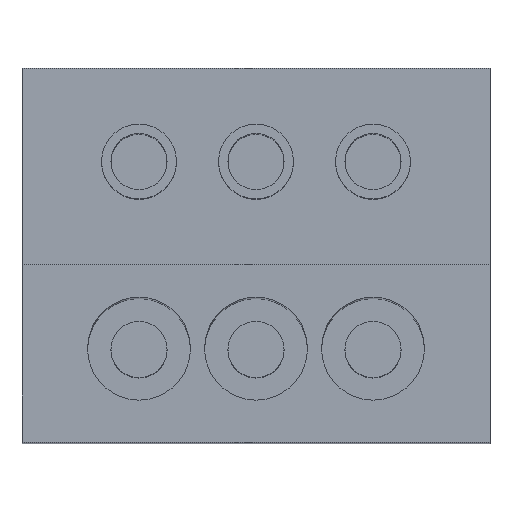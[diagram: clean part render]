
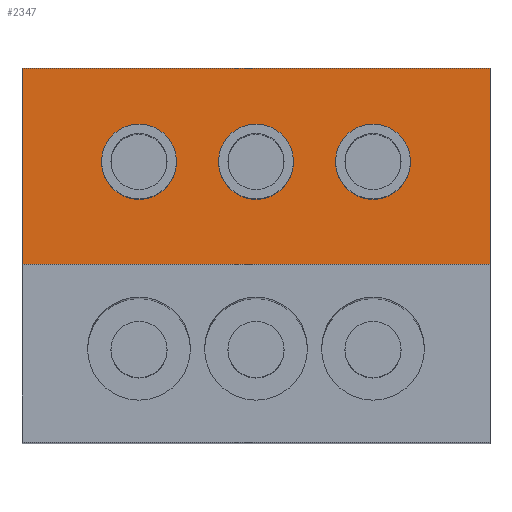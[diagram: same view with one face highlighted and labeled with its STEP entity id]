
A CAD part, top view. The second image highlights one B-rep face of the part: STEP entity #2347.
In plain terms, the highlighted planar face has unit normal (0, 0, 1).
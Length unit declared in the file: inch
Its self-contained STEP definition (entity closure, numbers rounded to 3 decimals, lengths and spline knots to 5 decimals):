
#1 = LINE ( 'NONE', #498, #1208 ) ;
#9 = CARTESIAN_POINT ( 'NONE',  ( -0.05, 0.038, 0.1 ) ) ;
#23 = DIRECTION ( 'NONE',  ( 0., -1., 0. ) ) ;
#24 = CARTESIAN_POINT ( 'NONE',  ( 0.025, 0.06, 0.1 ) ) ;
#99 = DIRECTION ( 'NONE',  ( 0., 1., 0. ) ) ;
#113 = LINE ( 'NONE', #2625, #920 ) ;
#170 = EDGE_CURVE ( 'NONE', #2721, #191, #647, .T. ) ;
#191 = VERTEX_POINT ( 'NONE', #977 ) ;
#212 = CIRCLE ( 'NONE', #1636, 0.008 ) ;
#278 = CARTESIAN_POINT ( 'NONE',  ( -0.05, 0.038, 0.1 ) ) ;
#281 = ORIENTED_EDGE ( 'NONE', *, *, #389, .T. ) ;
#291 = EDGE_CURVE ( 'NONE', #570, #841, #2469, .T. ) ;
#334 = CARTESIAN_POINT ( 'NONE',  ( -0.025, 0.06, 0.1 ) ) ;
#354 = VERTEX_POINT ( 'NONE', #9 ) ;
#389 = EDGE_CURVE ( 'NONE', #2552, #354, #724, .T. ) ;
#427 = CARTESIAN_POINT ( 'NONE',  ( -0.025, 0.06, 0.1 ) ) ;
#464 = DIRECTION ( 'NONE',  ( 0., 0., 1. ) ) ;
#468 = VECTOR ( 'NONE', #23, 39.37008 ) ;
#469 = ORIENTED_EDGE ( 'NONE', *, *, #860, .F. ) ;
#475 = ORIENTED_EDGE ( 'NONE', *, *, #170, .F. ) ;
#498 = CARTESIAN_POINT ( 'NONE',  ( 0.05, 0.08, 0.1 ) ) ;
#535 = EDGE_LOOP ( 'NONE', ( #281, #601, #475, #2475 ) ) ;
#570 = VERTEX_POINT ( 'NONE', #948 ) ;
#594 = AXIS2_PLACEMENT_3D ( 'NONE', #1029, #1226, #99 ) ;
#601 = ORIENTED_EDGE ( 'NONE', *, *, #741, .F. ) ;
#647 = LINE ( 'NONE', #1974, #468 ) ;
#659 = CIRCLE ( 'NONE', #1830, 0.008 ) ;
#678 = DIRECTION ( 'NONE',  ( 0., 0., -1. ) ) ;
#724 = LINE ( 'NONE', #278, #2736 ) ;
#741 = EDGE_CURVE ( 'NONE', #191, #354, #113, .T. ) ;
#767 = PLANE ( 'NONE',  #594 ) ;
#818 = CIRCLE ( 'NONE', #1355, 0.008 ) ;
#841 = VERTEX_POINT ( 'NONE', #1099 ) ;
#842 = CIRCLE ( 'NONE', #1120, 0.008 ) ;
#843 = DIRECTION ( 'NONE',  ( 0., 0., -1. ) ) ;
#860 = EDGE_CURVE ( 'NONE', #2498, #2704, #659, .T. ) ;
#875 = EDGE_LOOP ( 'NONE', ( #469, #1321 ) ) ;
#889 = DIRECTION ( 'NONE',  ( 0., -1., 0. ) ) ;
#898 = CARTESIAN_POINT ( 'NONE',  ( -0.05, 0.08, 0.1 ) ) ;
#920 = VECTOR ( 'NONE', #2389, 39.37008 ) ;
#940 = FACE_BOUND ( 'NONE', #2223, .T. ) ;
#948 = CARTESIAN_POINT ( 'NONE',  ( -0.033, 0.06, 0.1 ) ) ;
#977 = CARTESIAN_POINT ( 'NONE',  ( 0.05, 0.038, 0.1 ) ) ;
#990 = FACE_BOUND ( 'NONE', #1716, .T. ) ;
#1003 = CARTESIAN_POINT ( 'NONE',  ( 0., 0.06, 0.1 ) ) ;
#1029 = CARTESIAN_POINT ( 'NONE',  ( 0.05, 0.038, 0.1 ) ) ;
#1035 = CARTESIAN_POINT ( 'NONE',  ( 0.025, 0.06, 0.1 ) ) ;
#1099 = CARTESIAN_POINT ( 'NONE',  ( -0.017, 0.06, 0.1 ) ) ;
#1120 = AXIS2_PLACEMENT_3D ( 'NONE', #427, #678, #1122 ) ;
#1122 = DIRECTION ( 'NONE',  ( 0., 1., 0. ) ) ;
#1208 = VECTOR ( 'NONE', #2179, 39.37008 ) ;
#1210 = CARTESIAN_POINT ( 'NONE',  ( -0.008, 0.06, 0.1 ) ) ;
#1222 = FACE_OUTER_BOUND ( 'NONE', #535, .T. ) ;
#1226 = DIRECTION ( 'NONE',  ( 0., 0., -1. ) ) ;
#1265 = FACE_BOUND ( 'NONE', #875, .T. ) ;
#1321 = ORIENTED_EDGE ( 'NONE', *, *, #1483, .F. ) ;
#1355 = AXIS2_PLACEMENT_3D ( 'NONE', #1878, #2076, #2711 ) ;
#1391 = ORIENTED_EDGE ( 'NONE', *, *, #1996, .T. ) ;
#1483 = EDGE_CURVE ( 'NONE', #2704, #2498, #1786, .T. ) ;
#1505 = AXIS2_PLACEMENT_3D ( 'NONE', #334, #843, #1963 ) ;
#1573 = DIRECTION ( 'NONE',  ( 0., 0., 1. ) ) ;
#1636 = AXIS2_PLACEMENT_3D ( 'NONE', #1003, #2451, #2609 ) ;
#1675 = CARTESIAN_POINT ( 'NONE',  ( 0.033, 0.06, 0.1 ) ) ;
#1716 = EDGE_LOOP ( 'NONE', ( #2246, #1391 ) ) ;
#1786 = CIRCLE ( 'NONE', #2117, 0.008 ) ;
#1799 = EDGE_CURVE ( 'NONE', #1820, #1929, #818, .T. ) ;
#1802 = EDGE_CURVE ( 'NONE', #841, #570, #842, .T. ) ;
#1810 = ORIENTED_EDGE ( 'NONE', *, *, #1802, .T. ) ;
#1820 = VERTEX_POINT ( 'NONE', #2148 ) ;
#1830 = AXIS2_PLACEMENT_3D ( 'NONE', #1035, #464, #1895 ) ;
#1878 = CARTESIAN_POINT ( 'NONE',  ( 0., 0.06, 0.1 ) ) ;
#1895 = DIRECTION ( 'NONE',  ( 0., 1., 0. ) ) ;
#1929 = VERTEX_POINT ( 'NONE', #1210 ) ;
#1963 = DIRECTION ( 'NONE',  ( 0., 1., 0. ) ) ;
#1974 = CARTESIAN_POINT ( 'NONE',  ( 0.05, 0.038, 0.1 ) ) ;
#1976 = ORIENTED_EDGE ( 'NONE', *, *, #291, .T. ) ;
#1996 = EDGE_CURVE ( 'NONE', #1929, #1820, #212, .T. ) ;
#2052 = EDGE_CURVE ( 'NONE', #2721, #2552, #1, .T. ) ;
#2076 = DIRECTION ( 'NONE',  ( 0., 0., -1. ) ) ;
#2117 = AXIS2_PLACEMENT_3D ( 'NONE', #24, #1573, #2744 ) ;
#2148 = CARTESIAN_POINT ( 'NONE',  ( 0.008, 0.06, 0.1 ) ) ;
#2179 = DIRECTION ( 'NONE',  ( -1., 0., 0. ) ) ;
#2223 = EDGE_LOOP ( 'NONE', ( #1810, #1976 ) ) ;
#2242 = CARTESIAN_POINT ( 'NONE',  ( 0.05, 0.08, 0.1 ) ) ;
#2246 = ORIENTED_EDGE ( 'NONE', *, *, #1799, .T. ) ;
#2347 = ADVANCED_FACE ( 'NONE', ( #1265, #1222, #990, #940 ), #767, .F. ) ;
#2389 = DIRECTION ( 'NONE',  ( -1., 0., 0. ) ) ;
#2429 = CARTESIAN_POINT ( 'NONE',  ( 0.017, 0.06, 0.1 ) ) ;
#2451 = DIRECTION ( 'NONE',  ( 0., 0., -1. ) ) ;
#2469 = CIRCLE ( 'NONE', #1505, 0.008 ) ;
#2475 = ORIENTED_EDGE ( 'NONE', *, *, #2052, .T. ) ;
#2498 = VERTEX_POINT ( 'NONE', #1675 ) ;
#2552 = VERTEX_POINT ( 'NONE', #898 ) ;
#2609 = DIRECTION ( 'NONE',  ( 0., 1., 0. ) ) ;
#2625 = CARTESIAN_POINT ( 'NONE',  ( 0.05, 0.038, 0.1 ) ) ;
#2704 = VERTEX_POINT ( 'NONE', #2429 ) ;
#2711 = DIRECTION ( 'NONE',  ( 0., 1., 0. ) ) ;
#2721 = VERTEX_POINT ( 'NONE', #2242 ) ;
#2736 = VECTOR ( 'NONE', #889, 39.37008 ) ;
#2744 = DIRECTION ( 'NONE',  ( 0., 1., 0. ) ) ;
